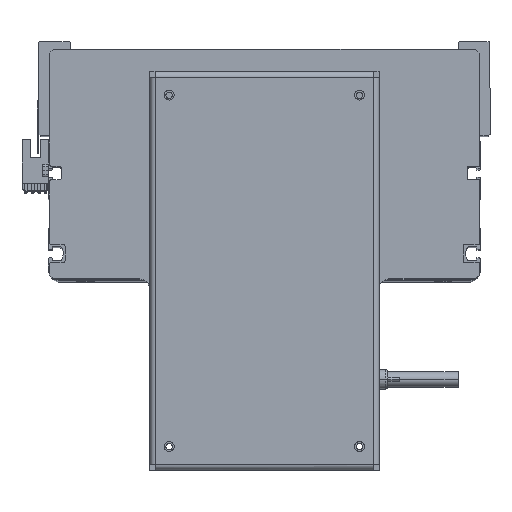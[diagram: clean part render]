
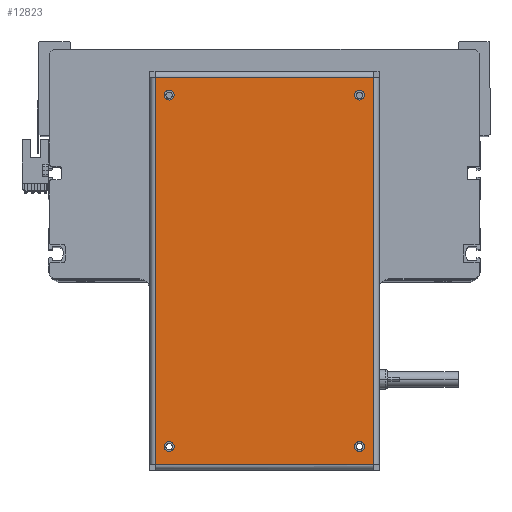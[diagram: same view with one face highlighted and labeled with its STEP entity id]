
A CAD part, top view. The second image highlights one B-rep face of the part: STEP entity #12823.
In plain terms, the highlighted planar face has unit normal (0, 0, 1).
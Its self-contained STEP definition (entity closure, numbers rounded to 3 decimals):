
#28 = CIRCLE ( 'NONE', #11574, 2.5 ) ;
#229 = CIRCLE ( 'NONE', #6581, 2.5 ) ;
#1598 = CARTESIAN_POINT ( 'NONE',  ( 87.05, -48.5, 0. ) ) ;
#1659 = VERTEX_POINT ( 'NONE', #36198 ) ;
#1731 = DIRECTION ( 'NONE',  ( 1., 0., 0. ) ) ;
#2483 = AXIS2_PLACEMENT_3D ( 'NONE', #29641, #32398, #20755 ) ;
#3338 = ORIENTED_EDGE ( 'NONE', *, *, #18779, .F. ) ;
#3581 = VECTOR ( 'NONE', #28649, 1000. ) ;
#3607 = VERTEX_POINT ( 'NONE', #10639 ) ;
#3872 = DIRECTION ( 'NONE',  ( 1., 0., 0. ) ) ;
#4127 = DIRECTION ( 'NONE',  ( 0., 0., 1. ) ) ;
#4521 = CARTESIAN_POINT ( 'NONE',  ( 89.55, -48.5, 0. ) ) ;
#4764 = CARTESIAN_POINT ( 'NONE',  ( -92.05, -48.5, 0. ) ) ;
#5519 = DIRECTION ( 'NONE',  ( 0., 1., 0. ) ) ;
#6445 = FACE_BOUND ( 'NONE', #24386, .T. ) ;
#6581 = AXIS2_PLACEMENT_3D ( 'NONE', #20799, #14557, #8266 ) ;
#6884 = CIRCLE ( 'NONE', #32981, 2.5 ) ;
#7352 = CARTESIAN_POINT ( 'NONE',  ( -87.05, 48.5, 0. ) ) ;
#7783 = DIRECTION ( 'NONE',  ( 1., 0., 0. ) ) ;
#8055 = CIRCLE ( 'NONE', #38761, 2.5 ) ;
#8266 = DIRECTION ( 'NONE',  ( 1., 0., 0. ) ) ;
#8344 = ORIENTED_EDGE ( 'NONE', *, *, #36196, .T. ) ;
#8759 = AXIS2_PLACEMENT_3D ( 'NONE', #36645, #24225, #3872 ) ;
#8775 = FACE_BOUND ( 'NONE', #16823, .T. ) ;
#9228 = DIRECTION ( 'NONE',  ( 1., 0., 0. ) ) ;
#9748 = LINE ( 'NONE', #33916, #32658 ) ;
#10008 = CARTESIAN_POINT ( 'NONE',  ( 98.65, -55.6, 0. ) ) ;
#10082 = ORIENTED_EDGE ( 'NONE', *, *, #26417, .F. ) ;
#10199 = CARTESIAN_POINT ( 'NONE',  ( 92.05, 48.5, 0. ) ) ;
#10214 = FACE_OUTER_BOUND ( 'NONE', #18954, .T. ) ;
#10259 = CARTESIAN_POINT ( 'NONE',  ( -98.65, 55.6, 0. ) ) ;
#10639 = CARTESIAN_POINT ( 'NONE',  ( -92.05, 48.5, 0. ) ) ;
#10655 = FACE_BOUND ( 'NONE', #28042, .T. ) ;
#11174 = VERTEX_POINT ( 'NONE', #32143 ) ;
#11380 = EDGE_CURVE ( 'NONE', #3607, #22657, #19190, .T. ) ;
#11381 = VERTEX_POINT ( 'NONE', #12286 ) ;
#11525 = LINE ( 'NONE', #10259, #3581 ) ;
#11574 = AXIS2_PLACEMENT_3D ( 'NONE', #18995, #30922, #36678 ) ;
#12286 = CARTESIAN_POINT ( 'NONE',  ( -87.05, -48.5, 0. ) ) ;
#12470 = ORIENTED_EDGE ( 'NONE', *, *, #24690, .T. ) ;
#12551 = FACE_BOUND ( 'NONE', #37231, .T. ) ;
#12677 = DIRECTION ( 'NONE',  ( 1., 0., 0. ) ) ;
#12823 = ADVANCED_FACE ( 'NONE', ( #10655, #6445, #8775, #12551, #10214 ), #35527, .F. ) ;
#12983 = CARTESIAN_POINT ( 'NONE',  ( 98.65, 55.6, 0. ) ) ;
#13293 = EDGE_CURVE ( 'NONE', #27383, #11174, #21962, .T. ) ;
#13890 = CARTESIAN_POINT ( 'NONE',  ( -89.55, 48.5, 0. ) ) ;
#13994 = VECTOR ( 'NONE', #5519, 1000. ) ;
#14557 = DIRECTION ( 'NONE',  ( 0., 0., 1. ) ) ;
#15247 = AXIS2_PLACEMENT_3D ( 'NONE', #13890, #19621, #1731 ) ;
#15516 = ORIENTED_EDGE ( 'NONE', *, *, #30148, .F. ) ;
#15518 = CIRCLE ( 'NONE', #15247, 2.5 ) ;
#15584 = VERTEX_POINT ( 'NONE', #22672 ) ;
#15868 = EDGE_CURVE ( 'NONE', #35705, #11381, #229, .T. ) ;
#16541 = ORIENTED_EDGE ( 'NONE', *, *, #34314, .T. ) ;
#16823 = EDGE_LOOP ( 'NONE', ( #36438, #22215 ) ) ;
#18110 = CARTESIAN_POINT ( 'NONE',  ( -89.55, -48.5, 0. ) ) ;
#18515 = CARTESIAN_POINT ( 'NONE',  ( -89.55, 48.5, 0. ) ) ;
#18779 = EDGE_CURVE ( 'NONE', #11381, #35705, #26698, .T. ) ;
#18954 = EDGE_LOOP ( 'NONE', ( #8344, #12470, #26853, #16541 ) ) ;
#18995 = CARTESIAN_POINT ( 'NONE',  ( 89.55, 48.5, 0. ) ) ;
#19190 = CIRCLE ( 'NONE', #26182, 2.5 ) ;
#19220 = VERTEX_POINT ( 'NONE', #10199 ) ;
#19389 = DIRECTION ( 'NONE',  ( 1., 0., 0. ) ) ;
#19621 = DIRECTION ( 'NONE',  ( 0., 0., 1. ) ) ;
#19849 = EDGE_CURVE ( 'NONE', #11174, #27383, #6884, .T. ) ;
#20755 = DIRECTION ( 'NONE',  ( -1., 0., 0. ) ) ;
#20799 = CARTESIAN_POINT ( 'NONE',  ( -89.55, -48.5, 0. ) ) ;
#21669 = VECTOR ( 'NONE', #29070, 1000. ) ;
#21962 = CIRCLE ( 'NONE', #8759, 2.5 ) ;
#22144 = VERTEX_POINT ( 'NONE', #29901 ) ;
#22215 = ORIENTED_EDGE ( 'NONE', *, *, #13293, .F. ) ;
#22657 = VERTEX_POINT ( 'NONE', #7352 ) ;
#22672 = CARTESIAN_POINT ( 'NONE',  ( -98.65, -55.6, 0. ) ) ;
#23286 = LINE ( 'NONE', #29183, #13994 ) ;
#24225 = DIRECTION ( 'NONE',  ( 0., 0., 1. ) ) ;
#24386 = EDGE_LOOP ( 'NONE', ( #10082, #27349 ) ) ;
#24690 = EDGE_CURVE ( 'NONE', #15584, #26000, #35229, .T. ) ;
#25398 = AXIS2_PLACEMENT_3D ( 'NONE', #18110, #26583, #9228 ) ;
#25673 = DIRECTION ( 'NONE',  ( 0., 0., 1. ) ) ;
#25943 = EDGE_CURVE ( 'NONE', #22144, #19220, #8055, .T. ) ;
#26000 = VERTEX_POINT ( 'NONE', #10008 ) ;
#26182 = AXIS2_PLACEMENT_3D ( 'NONE', #18515, #34475, #12677 ) ;
#26417 = EDGE_CURVE ( 'NONE', #22657, #3607, #15518, .T. ) ;
#26520 = ORIENTED_EDGE ( 'NONE', *, *, #15868, .F. ) ;
#26583 = DIRECTION ( 'NONE',  ( 0., 0., 1. ) ) ;
#26698 = CIRCLE ( 'NONE', #25398, 2.5 ) ;
#26853 = ORIENTED_EDGE ( 'NONE', *, *, #33710, .T. ) ;
#27349 = ORIENTED_EDGE ( 'NONE', *, *, #11380, .F. ) ;
#27383 = VERTEX_POINT ( 'NONE', #1598 ) ;
#28042 = EDGE_LOOP ( 'NONE', ( #3338, #26520 ) ) ;
#28169 = ORIENTED_EDGE ( 'NONE', *, *, #25943, .F. ) ;
#28649 = DIRECTION ( 'NONE',  ( 0., -1., 0. ) ) ;
#28653 = VERTEX_POINT ( 'NONE', #12983 ) ;
#29070 = DIRECTION ( 'NONE',  ( 1., 0., 0. ) ) ;
#29183 = CARTESIAN_POINT ( 'NONE',  ( 98.65, -55.6, 0. ) ) ;
#29641 = CARTESIAN_POINT ( 'NONE',  ( 98.75, 58.5, 0. ) ) ;
#29901 = CARTESIAN_POINT ( 'NONE',  ( 87.05, 48.5, 0. ) ) ;
#30148 = EDGE_CURVE ( 'NONE', #19220, #22144, #28, .T. ) ;
#30922 = DIRECTION ( 'NONE',  ( 0., 0., 1. ) ) ;
#31027 = DIRECTION ( 'NONE',  ( -1., 0., 0. ) ) ;
#32143 = CARTESIAN_POINT ( 'NONE',  ( 92.05, -48.5, 0. ) ) ;
#32398 = DIRECTION ( 'NONE',  ( 0., 0., -1. ) ) ;
#32658 = VECTOR ( 'NONE', #31027, 1000. ) ;
#32981 = AXIS2_PLACEMENT_3D ( 'NONE', #4521, #25673, #7783 ) ;
#33710 = EDGE_CURVE ( 'NONE', #26000, #28653, #23286, .T. ) ;
#33916 = CARTESIAN_POINT ( 'NONE',  ( 98.75, 55.6, 0. ) ) ;
#34050 = CARTESIAN_POINT ( 'NONE',  ( 89.55, 48.5, 0. ) ) ;
#34314 = EDGE_CURVE ( 'NONE', #28653, #1659, #9748, .T. ) ;
#34475 = DIRECTION ( 'NONE',  ( 0., 0., 1. ) ) ;
#35083 = CARTESIAN_POINT ( 'NONE',  ( -98.75, -55.6, 0. ) ) ;
#35229 = LINE ( 'NONE', #35083, #21669 ) ;
#35527 = PLANE ( 'NONE',  #2483 ) ;
#35705 = VERTEX_POINT ( 'NONE', #4764 ) ;
#36196 = EDGE_CURVE ( 'NONE', #1659, #15584, #11525, .T. ) ;
#36198 = CARTESIAN_POINT ( 'NONE',  ( -98.65, 55.6, 0. ) ) ;
#36438 = ORIENTED_EDGE ( 'NONE', *, *, #19849, .F. ) ;
#36645 = CARTESIAN_POINT ( 'NONE',  ( 89.55, -48.5, 0. ) ) ;
#36678 = DIRECTION ( 'NONE',  ( 1., 0., 0. ) ) ;
#37231 = EDGE_LOOP ( 'NONE', ( #15516, #28169 ) ) ;
#38761 = AXIS2_PLACEMENT_3D ( 'NONE', #34050, #4127, #19389 ) ;
